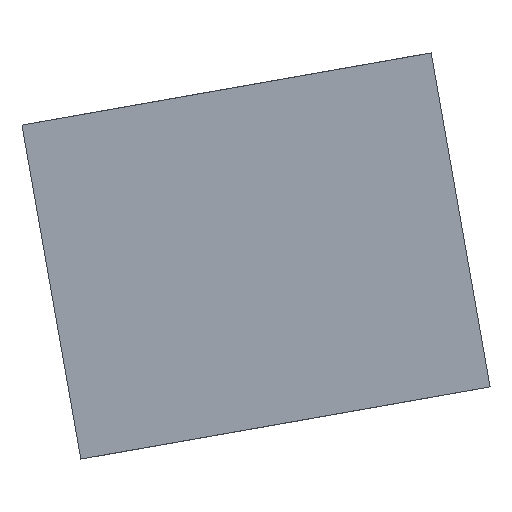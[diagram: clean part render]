
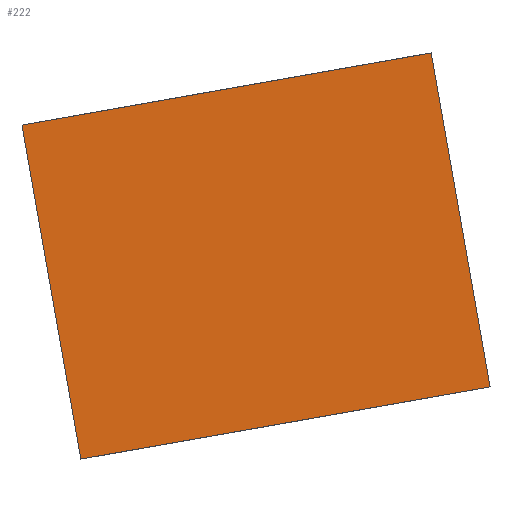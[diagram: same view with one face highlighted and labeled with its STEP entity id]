
A CAD part, left-side view. The second image highlights one B-rep face of the part: STEP entity #222.
In plain terms, the highlighted planar face has unit normal (-1, 0, 0).
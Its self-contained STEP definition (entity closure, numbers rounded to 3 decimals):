
#27=CARTESIAN_POINT('',(-101.5,-367.841,503.315));
#28=VERTEX_POINT('',#27);
#45=CARTESIAN_POINT('',(-101.5,-397.386,508.525));
#46=VERTEX_POINT('',#45);
#53=CARTESIAN_POINT('',(-101.5,-367.841,503.315));
#54=DIRECTION('',(0.0,-0.985,0.174));
#55=VECTOR('',#54,1.);
#56=LINE('',#53,#55);
#57=EDGE_CURVE('',#28,#46,#56,.T.);
#152=CARTESIAN_POINT('',(-101.5,-363.587,527.443));
#153=VERTEX_POINT('',#152);
#160=CARTESIAN_POINT('',(-101.5,-393.131,532.652));
#161=VERTEX_POINT('',#160);
#162=CARTESIAN_POINT('',(-101.5,-363.587,527.443));
#163=DIRECTION('',(0.0,-0.985,0.174));
#164=VECTOR('',#163,1.);
#165=LINE('',#162,#164);
#166=EDGE_CURVE('',#153,#161,#165,.T.);
#201=CARTESIAN_POINT('',(-101.5,-363.587,527.443));
#202=DIRECTION('',(-1.0,0.0,0.0));
#203=DIRECTION('',(0.0,-0.174,-0.985));
#204=AXIS2_PLACEMENT_3D('',#201,#202,#203);
#205=PLANE('',#204);
#206=CARTESIAN_POINT('',(-101.5,-363.587,527.443));
#207=DIRECTION('',(0.,-0.174,-0.985));
#208=VECTOR('',#207,1.);
#209=LINE('',#206,#208);
#210=EDGE_CURVE('',#153,#28,#209,.T.);
#211=ORIENTED_EDGE('',*,*,#210,.T.);
#212=ORIENTED_EDGE('',*,*,#57,.T.);
#213=CARTESIAN_POINT('',(-101.5,-393.131,532.652));
#214=DIRECTION('',(0.,-0.174,-0.985));
#215=VECTOR('',#214,1.);
#216=LINE('',#213,#215);
#217=EDGE_CURVE('',#161,#46,#216,.T.);
#218=ORIENTED_EDGE('',*,*,#217,.F.);
#219=ORIENTED_EDGE('',*,*,#166,.F.);
#220=EDGE_LOOP('',(#211,#212,#218,#219));
#221=FACE_BOUND('',#220,.T.);
#222=ADVANCED_FACE('',(#221),#205,.T.);
